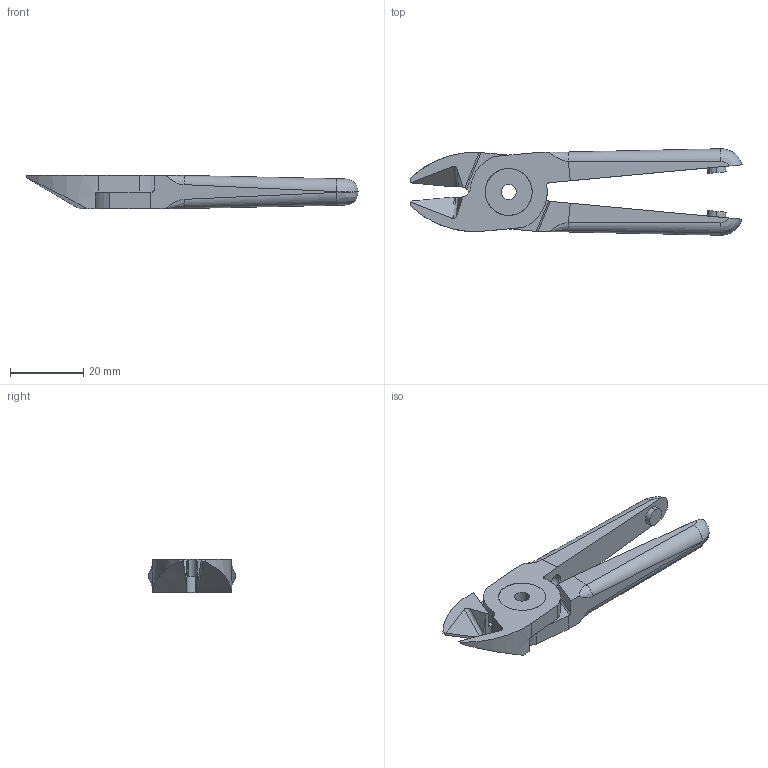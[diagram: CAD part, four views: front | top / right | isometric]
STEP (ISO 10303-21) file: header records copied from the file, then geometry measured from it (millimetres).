
FILE_DESCRIPTION (( 'STEP AP214' ), '1' );
FILE_NAME ('N10HS.STEP', '2019-11-29T01:55:03', ( '微软用户' ), ( '微软中国' ), 'SwSTEP 2.0', 'SolidWorks 2016', '' );
FILE_SCHEMA (( 'AUTOMOTIVE_DESIGN' ));
Length unit declared in the file: millimetre
Products named in the file (4): BR2; BR1; BS; N10HS
Assembly tree (3 placements, depth 2):
  N10HS
    BS
    BR1
    BR2
Bounding box: 90.47 x 23.56 x 9 mm (x, y, z)
Volume: 9653.9 mm3; surface area: 6570.1 mm2
Topology: 3 solids, 3 shells, 111 faces, 299 edges, 188 vertices
Faces by surface type: plane 42, cylinder 30, bspline 21, cone 18
Entity records: 4912 total; most frequent: CARTESIAN_POINT 2227, ORIENTED_EDGE 578, DIRECTION 468, EDGE_CURVE 289, VERTEX_POINT 188, AXIS2_PLACEMENT_3D 163, LINE 142, VECTOR 142
